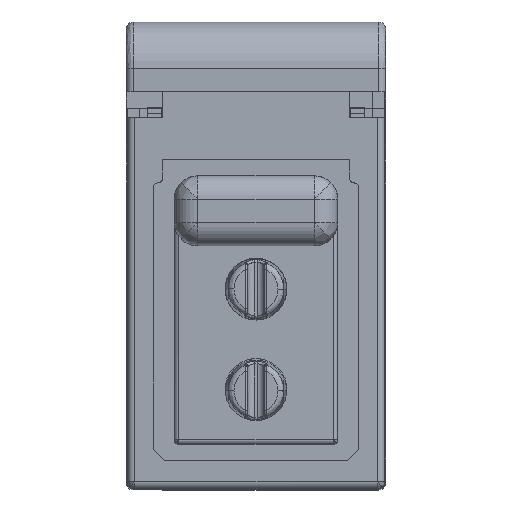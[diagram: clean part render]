
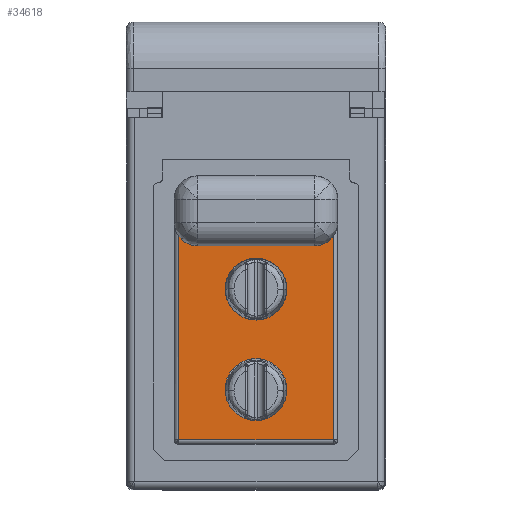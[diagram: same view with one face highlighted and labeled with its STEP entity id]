
A CAD part, top view. The second image highlights one B-rep face of the part: STEP entity #34618.
In plain terms, the highlighted planar face has unit normal (0, 0, 1) as drawn and (0, 0, -1) by its records, which use the part's own axes.
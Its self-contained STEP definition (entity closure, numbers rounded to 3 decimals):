
#487 = CARTESIAN_POINT ( 'NONE',  ( -3.75, 2.5, -6.3 ) ) ;
#618 = DIRECTION ( 'NONE',  ( 1., 0., 0. ) ) ;
#649 = CARTESIAN_POINT ( 'NONE',  ( 5.55, 3.3, -6.3 ) ) ;
#1583 = VERTEX_POINT ( 'NONE', #11182 ) ;
#2336 = ORIENTED_EDGE ( 'NONE', *, *, #35820, .T. ) ;
#2645 = CIRCLE ( 'NONE', #9621, 1.325 ) ;
#2842 = CARTESIAN_POINT ( 'NONE',  ( 5.55, -3.75, -6.3 ) ) ;
#3849 = CARTESIAN_POINT ( 'NONE',  ( 0.425, 0., -6.3 ) ) ;
#4267 = VERTEX_POINT ( 'NONE', #3849 ) ;
#5588 = LINE ( 'NONE', #57897, #54162 ) ;
#5643 = CIRCLE ( 'NONE', #6646, 1.325 ) ;
#5653 = CARTESIAN_POINT ( 'NONE',  ( -2.75, -3.75, -6.3 ) ) ;
#5707 = DIRECTION ( 'NONE',  ( 0., 0., 1. ) ) ;
#6646 = AXIS2_PLACEMENT_3D ( 'NONE', #28452, #52898, #57535 ) ;
#7808 = DIRECTION ( 'NONE',  ( 0., -1., 0. ) ) ;
#8010 = CIRCLE ( 'NONE', #42626, 1. ) ;
#9527 = CARTESIAN_POINT ( 'NONE',  ( -7.25, -3.75, -6.3 ) ) ;
#9621 = AXIS2_PLACEMENT_3D ( 'NONE', #44004, #20478, #29458 ) ;
#9672 = ORIENTED_EDGE ( 'NONE', *, *, #33520, .T. ) ;
#9987 = VERTEX_POINT ( 'NONE', #16063 ) ;
#10390 = AXIS2_PLACEMENT_3D ( 'NONE', #40373, #30762, #59883 ) ;
#11095 = CARTESIAN_POINT ( 'NONE',  ( 5.55, -3.3, -6.3 ) ) ;
#11182 = CARTESIAN_POINT ( 'NONE',  ( -3.15, -3.3, -6.3 ) ) ;
#11265 = CIRCLE ( 'NONE', #54765, 1.325 ) ;
#11269 = VERTEX_POINT ( 'NONE', #51030 ) ;
#13574 = VERTEX_POINT ( 'NONE', #41904 ) ;
#13729 = EDGE_CURVE ( 'NONE', #11269, #23665, #48652, .T. ) ;
#14872 = ORIENTED_EDGE ( 'NONE', *, *, #44137, .T. ) ;
#15594 = EDGE_LOOP ( 'NONE', ( #42666, #29502 ) ) ;
#16063 = CARTESIAN_POINT ( 'NONE',  ( -3.15, 3.3, -6.3 ) ) ;
#16579 = VERTEX_POINT ( 'NONE', #11095 ) ;
#17041 = CARTESIAN_POINT ( 'NONE',  ( -2.225, 0., -6.3 ) ) ;
#18477 = ORIENTED_EDGE ( 'NONE', *, *, #21583, .T. ) ;
#19427 = FACE_BOUND ( 'NONE', #15594, .T. ) ;
#19966 = DIRECTION ( 'NONE',  ( 1., 0., 0. ) ) ;
#20268 = EDGE_CURVE ( 'NONE', #9987, #33495, #5588, .T. ) ;
#20478 = DIRECTION ( 'NONE',  ( 0., 0., 1. ) ) ;
#21583 = EDGE_CURVE ( 'NONE', #4267, #42828, #5643, .T. ) ;
#22005 = EDGE_CURVE ( 'NONE', #23665, #9987, #48177, .T. ) ;
#22598 = CARTESIAN_POINT ( 'NONE',  ( 4.725, 0., -6.3 ) ) ;
#23497 = EDGE_LOOP ( 'NONE', ( #9672, #18477 ) ) ;
#23509 = VECTOR ( 'NONE', #51375, 1000. ) ;
#23665 = VERTEX_POINT ( 'NONE', #29780 ) ;
#24550 = DIRECTION ( 'NONE',  ( 0., 1., 0. ) ) ;
#28389 = PLANE ( 'NONE',  #54140 ) ;
#28452 = CARTESIAN_POINT ( 'NONE',  ( -0.9, 0., -6.3 ) ) ;
#28456 = AXIS2_PLACEMENT_3D ( 'NONE', #487, #52515, #33607 ) ;
#28654 = VECTOR ( 'NONE', #7808, 1000. ) ;
#28694 = DIRECTION ( 'NONE',  ( 0., 0., -1. ) ) ;
#29458 = DIRECTION ( 'NONE',  ( -1., 0., 0. ) ) ;
#29502 = ORIENTED_EDGE ( 'NONE', *, *, #59619, .T. ) ;
#29780 = CARTESIAN_POINT ( 'NONE',  ( -2.75, 2.5, -6.3 ) ) ;
#30762 = DIRECTION ( 'NONE',  ( 0., 0., 1. ) ) ;
#32546 = VERTEX_POINT ( 'NONE', #22598 ) ;
#32660 = EDGE_CURVE ( 'NONE', #16579, #1583, #56323, .T. ) ;
#33016 = FACE_BOUND ( 'NONE', #23497, .T. ) ;
#33055 = ORIENTED_EDGE ( 'NONE', *, *, #22005, .T. ) ;
#33495 = VERTEX_POINT ( 'NONE', #649 ) ;
#33520 = EDGE_CURVE ( 'NONE', #42828, #4267, #2645, .T. ) ;
#33607 = DIRECTION ( 'NONE',  ( 1., 0., 0. ) ) ;
#34618 = ADVANCED_FACE ( 'NONE', ( #33016, #19427, #55955 ), #28389, .T. ) ;
#35808 = ORIENTED_EDGE ( 'NONE', *, *, #20268, .T. ) ;
#35820 = EDGE_CURVE ( 'NONE', #1583, #11269, #8010, .T. ) ;
#36528 = EDGE_LOOP ( 'NONE', ( #14872, #52067, #2336, #38273, #33055, #35808 ) ) ;
#38273 = ORIENTED_EDGE ( 'NONE', *, *, #13729, .T. ) ;
#40373 = CARTESIAN_POINT ( 'NONE',  ( 3.4, 0., -6.3 ) ) ;
#41904 = CARTESIAN_POINT ( 'NONE',  ( 2.075, 0., -6.3 ) ) ;
#42626 = AXIS2_PLACEMENT_3D ( 'NONE', #53381, #5707, #19966 ) ;
#42666 = ORIENTED_EDGE ( 'NONE', *, *, #56643, .T. ) ;
#42828 = VERTEX_POINT ( 'NONE', #17041 ) ;
#43199 = VECTOR ( 'NONE', #24550, 1000. ) ;
#44004 = CARTESIAN_POINT ( 'NONE',  ( -0.9, 0., -6.3 ) ) ;
#44137 = EDGE_CURVE ( 'NONE', #33495, #16579, #55786, .T. ) ;
#44913 = CARTESIAN_POINT ( 'NONE',  ( 3.4, 0., -6.3 ) ) ;
#47563 = DIRECTION ( 'NONE',  ( -1., 0., 0. ) ) ;
#48177 = CIRCLE ( 'NONE', #28456, 1. ) ;
#48652 = LINE ( 'NONE', #5653, #43199 ) ;
#50159 = DIRECTION ( 'NONE',  ( 0., 0., 1. ) ) ;
#51030 = CARTESIAN_POINT ( 'NONE',  ( -2.75, -2.5, -6.3 ) ) ;
#51375 = DIRECTION ( 'NONE',  ( -1., 0., 0. ) ) ;
#52067 = ORIENTED_EDGE ( 'NONE', *, *, #32660, .T. ) ;
#52515 = DIRECTION ( 'NONE',  ( 0., 0., 1. ) ) ;
#52898 = DIRECTION ( 'NONE',  ( 0., 0., 1. ) ) ;
#53381 = CARTESIAN_POINT ( 'NONE',  ( -3.75, -2.5, -6.3 ) ) ;
#54140 = AXIS2_PLACEMENT_3D ( 'NONE', #9527, #28694, #47563 ) ;
#54162 = VECTOR ( 'NONE', #618, 1000. ) ;
#54765 = AXIS2_PLACEMENT_3D ( 'NONE', #44913, #50159, #60076 ) ;
#55786 = LINE ( 'NONE', #2842, #28654 ) ;
#55955 = FACE_OUTER_BOUND ( 'NONE', #36528, .T. ) ;
#56323 = LINE ( 'NONE', #61283, #23509 ) ;
#56643 = EDGE_CURVE ( 'NONE', #13574, #32546, #11265, .T. ) ;
#56870 = CIRCLE ( 'NONE', #10390, 1.325 ) ;
#57535 = DIRECTION ( 'NONE',  ( -1., 0., 0. ) ) ;
#57897 = CARTESIAN_POINT ( 'NONE',  ( -7.25, 3.3, -6.3 ) ) ;
#59619 = EDGE_CURVE ( 'NONE', #32546, #13574, #56870, .T. ) ;
#59883 = DIRECTION ( 'NONE',  ( -1., 0., 0. ) ) ;
#60076 = DIRECTION ( 'NONE',  ( -1., 0., 0. ) ) ;
#61283 = CARTESIAN_POINT ( 'NONE',  ( -7.25, -3.3, -6.3 ) ) ;
